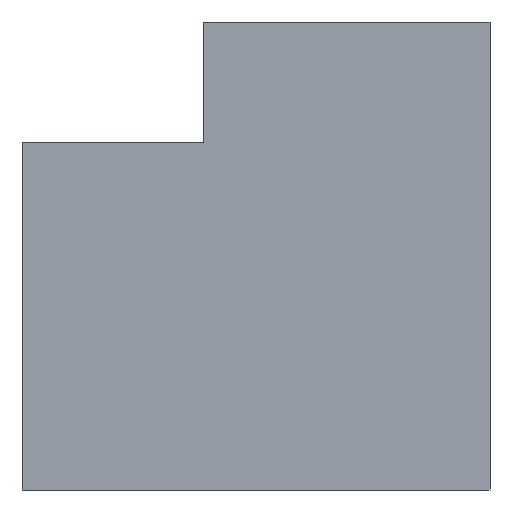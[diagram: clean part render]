
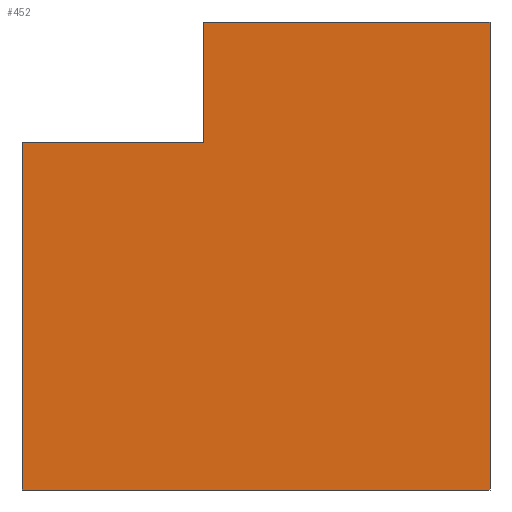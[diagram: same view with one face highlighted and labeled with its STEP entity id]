
A CAD part, left-side view. The second image highlights one B-rep face of the part: STEP entity #452.
In plain terms, the highlighted planar face has unit normal (-1, 0, 0).
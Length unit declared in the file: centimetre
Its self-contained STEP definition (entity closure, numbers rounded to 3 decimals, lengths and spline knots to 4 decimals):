
#18 = DIRECTION ( 'NONE',  ( 0., -1., 0. ) ) ;
#25 = DIRECTION ( 'NONE',  ( 0., 0., -1. ) ) ;
#33 = ORIENTED_EDGE ( 'NONE', *, *, #123, .T. ) ;
#37 = CARTESIAN_POINT ( 'NONE',  ( 0., 1000., 1000. ) ) ;
#42 = ORIENTED_EDGE ( 'NONE', *, *, #340, .F. ) ;
#45 = CARTESIAN_POINT ( 'NONE',  ( 0., 611.6125, 1000. ) ) ;
#61 = DIRECTION ( 'NONE',  ( 0., -1., 0. ) ) ;
#73 = VERTEX_POINT ( 'NONE', #261 ) ;
#91 = CARTESIAN_POINT ( 'NONE',  ( 0., 1000., 1000. ) ) ;
#112 = VERTEX_POINT ( 'NONE', #45 ) ;
#123 = EDGE_CURVE ( 'NONE', #568, #316, #386, .T. ) ;
#128 = CARTESIAN_POINT ( 'NONE',  ( 0., 1000., 0. ) ) ;
#138 = DIRECTION ( 'NONE',  ( 0., 0., 1. ) ) ;
#170 = LINE ( 'NONE', #367, #389 ) ;
#180 = CARTESIAN_POINT ( 'NONE',  ( 0., 0., 1000. ) ) ;
#219 = ORIENTED_EDGE ( 'NONE', *, *, #620, .F. ) ;
#261 = CARTESIAN_POINT ( 'NONE',  ( 0., 0., 1000. ) ) ;
#272 = VECTOR ( 'NONE', #18, 100. ) ;
#298 = FACE_OUTER_BOUND ( 'NONE', #637, .T. ) ;
#316 = VERTEX_POINT ( 'NONE', #404 ) ;
#327 = DIRECTION ( 'NONE',  ( 0., 0., -1. ) ) ;
#338 = LINE ( 'NONE', #473, #811 ) ;
#340 = EDGE_CURVE ( 'NONE', #112, #73, #876, .T. ) ;
#367 = CARTESIAN_POINT ( 'NONE',  ( 0., 1000., 1000. ) ) ;
#386 = LINE ( 'NONE', #899, #872 ) ;
#389 = VECTOR ( 'NONE', #25, 100. ) ;
#404 = CARTESIAN_POINT ( 'NONE',  ( 0., 1000., 743.0975 ) ) ;
#411 = CARTESIAN_POINT ( 'NONE',  ( 0., 1000., 0. ) ) ;
#451 = EDGE_CURVE ( 'NONE', #316, #645, #170, .T. ) ;
#452 = ADVANCED_FACE ( 'NONE', ( #298 ), #516, .F. ) ;
#473 = CARTESIAN_POINT ( 'NONE',  ( 0., 611.6125, 743.0975 ) ) ;
#491 = EDGE_CURVE ( 'NONE', #73, #910, #740, .T. ) ;
#516 = PLANE ( 'NONE',  #544 ) ;
#525 = ORIENTED_EDGE ( 'NONE', *, *, #630, .T. ) ;
#526 = ORIENTED_EDGE ( 'NONE', *, *, #491, .F. ) ;
#529 = CARTESIAN_POINT ( 'NONE',  ( 0., 611.6125, 743.0975 ) ) ;
#544 = AXIS2_PLACEMENT_3D ( 'NONE', #37, #587, #873 ) ;
#568 = VERTEX_POINT ( 'NONE', #529 ) ;
#587 = DIRECTION ( 'NONE',  ( 1., 0., 0. ) ) ;
#620 = EDGE_CURVE ( 'NONE', #568, #112, #338, .T. ) ;
#630 = EDGE_CURVE ( 'NONE', #645, #910, #711, .T. ) ;
#637 = EDGE_LOOP ( 'NONE', ( #219, #33, #806, #525, #526, #42 ) ) ;
#645 = VERTEX_POINT ( 'NONE', #411 ) ;
#696 = VECTOR ( 'NONE', #327, 100. ) ;
#711 = LINE ( 'NONE', #128, #829 ) ;
#740 = LINE ( 'NONE', #180, #696 ) ;
#760 = DIRECTION ( 'NONE',  ( 0., 1., 0. ) ) ;
#806 = ORIENTED_EDGE ( 'NONE', *, *, #451, .T. ) ;
#811 = VECTOR ( 'NONE', #138, 100. ) ;
#822 = CARTESIAN_POINT ( 'NONE',  ( 0., 0., 0. ) ) ;
#829 = VECTOR ( 'NONE', #61, 100. ) ;
#872 = VECTOR ( 'NONE', #760, 100. ) ;
#873 = DIRECTION ( 'NONE',  ( 0., 0., -1. ) ) ;
#876 = LINE ( 'NONE', #91, #272 ) ;
#899 = CARTESIAN_POINT ( 'NONE',  ( 0., 611.6125, 743.0975 ) ) ;
#910 = VERTEX_POINT ( 'NONE', #822 ) ;
